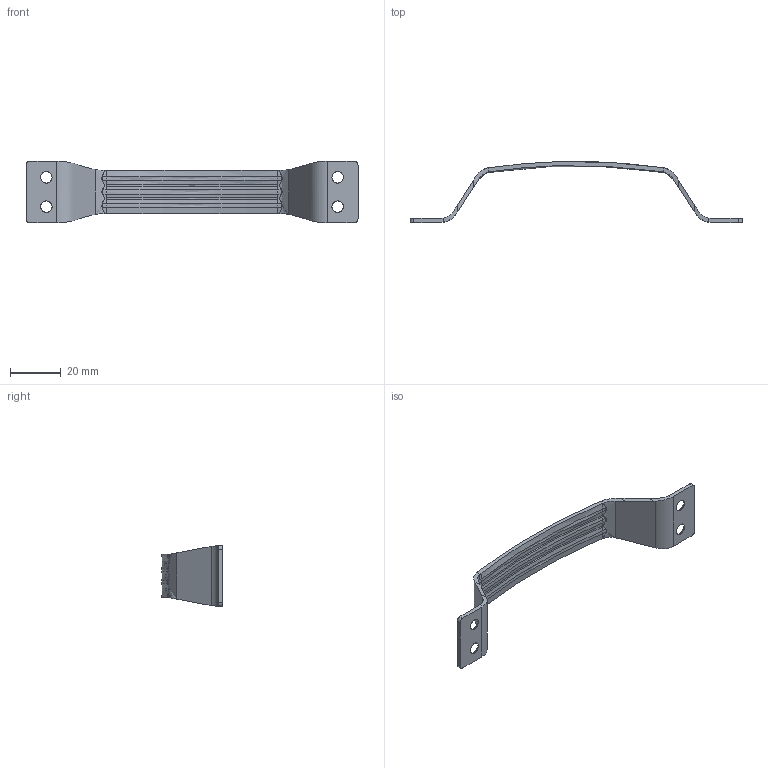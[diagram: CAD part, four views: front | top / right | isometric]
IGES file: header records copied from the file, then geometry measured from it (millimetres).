
Global section: file name: DR_A-PT3; native system: Autodesk Inventor 2015; preprocessor: unknown; author: CHANNEL&J; date: 20170713.155339; units: millimetre
Bounding box: 130.5 x 23.97 x 24 mm (x, y, z)
Volume: 4497.8 mm3; surface area: 6330.4 mm2
Topology: 1 solids, 1 shells, 136 faces, 342 edges, 208 vertices
Faces by surface type: bspline 136
